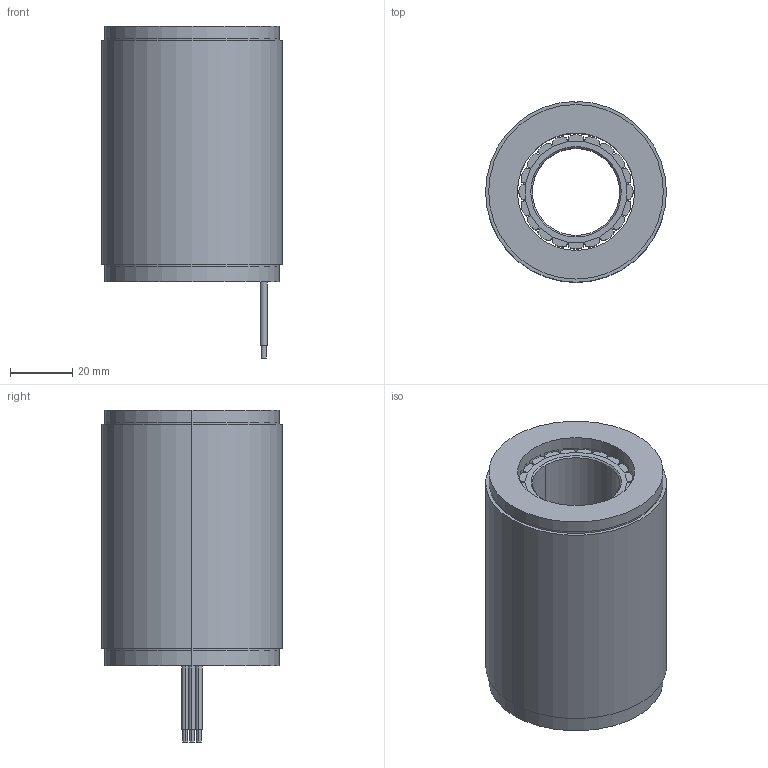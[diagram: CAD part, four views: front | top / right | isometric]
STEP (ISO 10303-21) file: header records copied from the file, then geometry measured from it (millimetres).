
FILE_DESCRIPTION (( 'STEP AP203' ), '1' );
FILE_NAME ('5882萇儂.STEP', '2025-04-18T03:33:49', ( '' ), ( '' ), 'SwSTEP 2.0', 'SolidWorks 2023', '' );
FILE_SCHEMA (( 'CONFIG_CONTROL_DESIGN' ));
Length unit declared in the file: millimetre
Products named in the file (12): AWG16线白; AWG16红; AWG16电缆; 5882铁心涂覆; 5882轴-标准; 5882电机; 5882定子; AWG16线黑; 5882转子; 5882线圈; 5882胶; 5882磁铁
Assembly tree (67 placements, depth 3):
  5882电机
    5882定子
      5882铁心涂覆
      5882线圈  x18
    5882转子
      5882轴-标准
      5882磁铁  x40
    AWG16电缆
      AWG16红
      AWG16线白
      AWG16线黑
    5882胶
Bounding box: 58 x 58 x 106.5 mm (x, y, z)
Volume: 243560 mm3; surface area: 160298.2 mm2
Topology: 64 solids, 64 shells, 925 faces, 2363 edges, 1574 vertices
Faces by surface type: plane 568, cylinder 353, cone 4
Entity records: 12857 total; most frequent: DIRECTION 1809, CARTESIAN_POINT 1787, ORIENTED_EDGE 1690, EDGE_CURVE 845, LINE 641, VECTOR 641, AXIS2_PLACEMENT_3D 584, VERTEX_POINT 562
